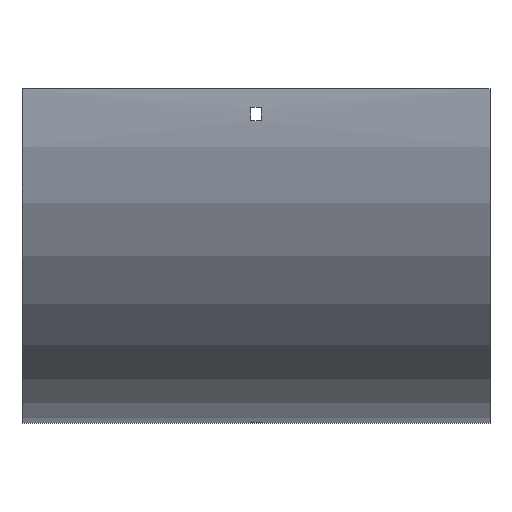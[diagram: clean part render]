
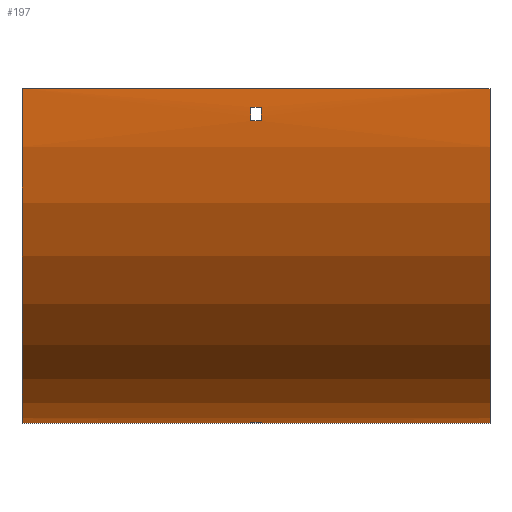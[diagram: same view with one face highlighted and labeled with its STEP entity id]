
A CAD part, front view. The second image highlights one B-rep face of the part: STEP entity #197.
In plain terms, the highlighted cylindrical face has radius 217.5 mm (diameter 435 mm), a partial arc.
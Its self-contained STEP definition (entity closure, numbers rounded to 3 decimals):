
#13 = CIRCLE ( 'NONE', #970, 217.5 ) ;
#21 = CARTESIAN_POINT ( 'NONE',  ( 152., 100., 0. ) ) ;
#43 = DIRECTION ( 'NONE',  ( 1., 0., 0. ) ) ;
#99 = AXIS2_PLACEMENT_3D ( 'NONE', #1399, #1268, #897 ) ;
#137 = EDGE_CURVE ( 'NONE', #362, #1478, #13, .T. ) ;
#172 = DIRECTION ( 'NONE',  ( -1., 0., 0. ) ) ;
#179 = DIRECTION ( 'NONE',  ( 1., 0., 0. ) ) ;
#197 = ADVANCED_FACE ( 'NONE', ( #198, #606, #987 ), #1527, .T. ) ;
#198 = FACE_OUTER_BOUND ( 'NONE', #705, .T. ) ;
#242 = EDGE_CURVE ( 'NONE', #421, #484, #834, .T. ) ;
#267 = DIRECTION ( 'NONE',  ( -1., 0., 0. ) ) ;
#302 = DIRECTION ( 'NONE',  ( -1., 0., 0. ) ) ;
#329 = VERTEX_POINT ( 'NONE', #517 ) ;
#362 = VERTEX_POINT ( 'NONE', #1686 ) ;
#373 = AXIS2_PLACEMENT_3D ( 'NONE', #1598, #1209, #1097 ) ;
#378 = ORIENTED_EDGE ( 'NONE', *, *, #1531, .F. ) ;
#399 = DIRECTION ( 'NONE',  ( -1., 0., 0. ) ) ;
#417 = EDGE_CURVE ( 'NONE', #1094, #1478, #1379, .T. ) ;
#421 = VERTEX_POINT ( 'NONE', #458 ) ;
#435 = LINE ( 'NONE', #1240, #729 ) ;
#438 = EDGE_CURVE ( 'NONE', #1086, #421, #1070, .T. ) ;
#439 = DIRECTION ( 'NONE',  ( 0., 0., 1. ) ) ;
#441 = CARTESIAN_POINT ( 'NONE',  ( -3.25, -117.169, -12. ) ) ;
#458 = CARTESIAN_POINT ( 'NONE',  ( 3.25, 88., -217.169 ) ) ;
#476 = DIRECTION ( 'NONE',  ( 0., 0., 1. ) ) ;
#484 = VERTEX_POINT ( 'NONE', #1465 ) ;
#495 = DIRECTION ( 'NONE',  ( 0., 0., 1. ) ) ;
#503 = ORIENTED_EDGE ( 'NONE', *, *, #417, .F. ) ;
#517 = CARTESIAN_POINT ( 'NONE',  ( 3.25, -117.169, -12. ) ) ;
#534 = DIRECTION ( 'NONE',  ( 1., 0., 0. ) ) ;
#550 = CARTESIAN_POINT ( 'NONE',  ( 152., 100., -217.5 ) ) ;
#562 = CIRCLE ( 'NONE', #373, 217.5 ) ;
#592 = EDGE_CURVE ( 'NONE', #329, #1048, #1082, .T. ) ;
#606 = FACE_BOUND ( 'NONE', #1559, .T. ) ;
#633 = ORIENTED_EDGE ( 'NONE', *, *, #592, .T. ) ;
#645 = EDGE_CURVE ( 'NONE', #1442, #362, #1308, .T. ) ;
#676 = CARTESIAN_POINT ( 'NONE',  ( -152., 100., -217.5 ) ) ;
#689 = EDGE_CURVE ( 'NONE', #1442, #1094, #835, .T. ) ;
#692 = LINE ( 'NONE', #922, #1359 ) ;
#702 = VECTOR ( 'NONE', #1483, 1000. ) ;
#705 = EDGE_LOOP ( 'NONE', ( #1170, #503, #1376, #1551 ) ) ;
#712 = ORIENTED_EDGE ( 'NONE', *, *, #1581, .T. ) ;
#717 = DIRECTION ( 'NONE',  ( -1., 0., 0. ) ) ;
#728 = CARTESIAN_POINT ( 'NONE',  ( -3.25, -116.484, -21. ) ) ;
#729 = VECTOR ( 'NONE', #43, 1000. ) ;
#764 = DIRECTION ( 'NONE',  ( -1., 0., 0. ) ) ;
#824 = CARTESIAN_POINT ( 'NONE',  ( 152., 100., -217.5 ) ) ;
#834 = CIRCLE ( 'NONE', #1412, 217.5 ) ;
#835 = CIRCLE ( 'NONE', #1438, 217.5 ) ;
#838 = EDGE_CURVE ( 'NONE', #1667, #1638, #1029, .T. ) ;
#897 = DIRECTION ( 'NONE',  ( 0., 0., -1. ) ) ;
#905 = DIRECTION ( 'NONE',  ( 1., 0., 0. ) ) ;
#922 = CARTESIAN_POINT ( 'NONE',  ( 152., 79., -216.484 ) ) ;
#924 = CARTESIAN_POINT ( 'NONE',  ( 3.25, -116.484, -21. ) ) ;
#953 = CARTESIAN_POINT ( 'NONE',  ( -152., 100., 0. ) ) ;
#959 = CARTESIAN_POINT ( 'NONE',  ( 152., -116.484, -21. ) ) ;
#970 = AXIS2_PLACEMENT_3D ( 'NONE', #953, #179, #1203 ) ;
#987 = FACE_BOUND ( 'NONE', #1413, .T. ) ;
#998 = VERTEX_POINT ( 'NONE', #1180 ) ;
#1029 = CIRCLE ( 'NONE', #1166, 217.5 ) ;
#1048 = VERTEX_POINT ( 'NONE', #924 ) ;
#1070 = LINE ( 'NONE', #1200, #1300 ) ;
#1071 = LINE ( 'NONE', #959, #702 ) ;
#1080 = VECTOR ( 'NONE', #399, 1000. ) ;
#1082 = CIRCLE ( 'NONE', #99, 217.5 ) ;
#1086 = VERTEX_POINT ( 'NONE', #1316 ) ;
#1094 = VERTEX_POINT ( 'NONE', #824 ) ;
#1097 = DIRECTION ( 'NONE',  ( 0., 1., 0. ) ) ;
#1159 = EDGE_CURVE ( 'NONE', #1638, #329, #435, .T. ) ;
#1161 = CARTESIAN_POINT ( 'NONE',  ( 152., -117.5, 0. ) ) ;
#1166 = AXIS2_PLACEMENT_3D ( 'NONE', #1462, #172, #439 ) ;
#1170 = ORIENTED_EDGE ( 'NONE', *, *, #137, .T. ) ;
#1180 = CARTESIAN_POINT ( 'NONE',  ( -3.25, 79., -216.484 ) ) ;
#1196 = EDGE_CURVE ( 'NONE', #484, #998, #692, .T. ) ;
#1200 = CARTESIAN_POINT ( 'NONE',  ( 152., 88., -217.169 ) ) ;
#1203 = DIRECTION ( 'NONE',  ( 0., 0., -1. ) ) ;
#1209 = DIRECTION ( 'NONE',  ( 1., 0., 0. ) ) ;
#1240 = CARTESIAN_POINT ( 'NONE',  ( 152., -117.169, -12. ) ) ;
#1247 = ORIENTED_EDGE ( 'NONE', *, *, #242, .F. ) ;
#1254 = ORIENTED_EDGE ( 'NONE', *, *, #1159, .T. ) ;
#1268 = DIRECTION ( 'NONE',  ( 1., 0., 0. ) ) ;
#1290 = ORIENTED_EDGE ( 'NONE', *, *, #438, .F. ) ;
#1300 = VECTOR ( 'NONE', #534, 1000. ) ;
#1308 = LINE ( 'NONE', #1161, #1494 ) ;
#1316 = CARTESIAN_POINT ( 'NONE',  ( -3.25, 88., -217.169 ) ) ;
#1359 = VECTOR ( 'NONE', #302, 1000. ) ;
#1376 = ORIENTED_EDGE ( 'NONE', *, *, #689, .F. ) ;
#1379 = LINE ( 'NONE', #550, #1080 ) ;
#1384 = CARTESIAN_POINT ( 'NONE',  ( 152., 100., 0. ) ) ;
#1399 = CARTESIAN_POINT ( 'NONE',  ( 3.25, 100., 0. ) ) ;
#1412 = AXIS2_PLACEMENT_3D ( 'NONE', #1423, #267, #495 ) ;
#1413 = EDGE_LOOP ( 'NONE', ( #378, #1659, #1247, #1290 ) ) ;
#1420 = ORIENTED_EDGE ( 'NONE', *, *, #838, .T. ) ;
#1423 = CARTESIAN_POINT ( 'NONE',  ( 3.25, 100., 0. ) ) ;
#1438 = AXIS2_PLACEMENT_3D ( 'NONE', #21, #905, #1567 ) ;
#1442 = VERTEX_POINT ( 'NONE', #1693 ) ;
#1462 = CARTESIAN_POINT ( 'NONE',  ( -3.25, 100., 0. ) ) ;
#1465 = CARTESIAN_POINT ( 'NONE',  ( 3.25, 79., -216.484 ) ) ;
#1478 = VERTEX_POINT ( 'NONE', #676 ) ;
#1483 = DIRECTION ( 'NONE',  ( -1., 0., 0. ) ) ;
#1494 = VECTOR ( 'NONE', #764, 1000. ) ;
#1527 = CYLINDRICAL_SURFACE ( 'NONE', #1653, 217.5 ) ;
#1531 = EDGE_CURVE ( 'NONE', #998, #1086, #562, .T. ) ;
#1551 = ORIENTED_EDGE ( 'NONE', *, *, #645, .T. ) ;
#1559 = EDGE_LOOP ( 'NONE', ( #712, #1420, #1254, #633 ) ) ;
#1567 = DIRECTION ( 'NONE',  ( 0., 0., -1. ) ) ;
#1581 = EDGE_CURVE ( 'NONE', #1048, #1667, #1071, .T. ) ;
#1598 = CARTESIAN_POINT ( 'NONE',  ( -3.25, 100., 0. ) ) ;
#1638 = VERTEX_POINT ( 'NONE', #441 ) ;
#1653 = AXIS2_PLACEMENT_3D ( 'NONE', #1384, #717, #476 ) ;
#1659 = ORIENTED_EDGE ( 'NONE', *, *, #1196, .F. ) ;
#1667 = VERTEX_POINT ( 'NONE', #728 ) ;
#1686 = CARTESIAN_POINT ( 'NONE',  ( -152., -117.5, 0. ) ) ;
#1693 = CARTESIAN_POINT ( 'NONE',  ( 152., -117.5, 0. ) ) ;
